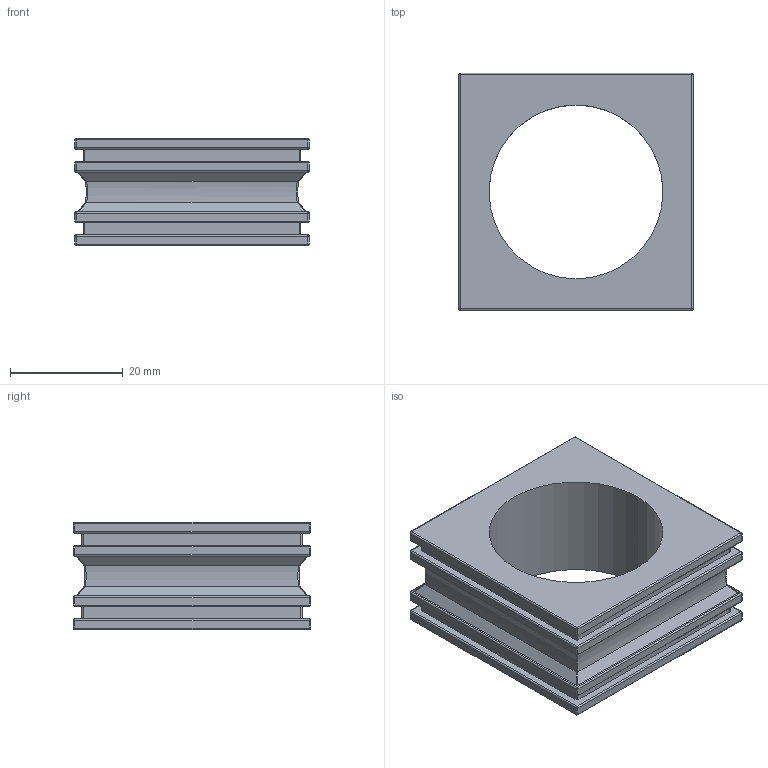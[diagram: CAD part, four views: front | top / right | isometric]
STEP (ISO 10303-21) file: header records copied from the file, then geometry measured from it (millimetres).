
FILE_DESCRIPTION (( 'STEP AP203' ), '1' );
FILE_NAME ('041231 KT31.STEP', '2023-03-07T06:44:07', ( '' ), ( '' ), 'SwSTEP 2.0', 'SolidWorks 2016', '' );
FILE_SCHEMA (( 'CONFIG_CONTROL_DESIGN' ));
Length unit declared in the file: millimetre
Products named in the file (1): 041231 KT31
Bounding box: 41.5 x 42 x 19 mm (x, y, z)
Volume: 16082.2 mm3; surface area: 8018.8 mm2
Topology: 1 solids, 1 shells, 194 faces, 480 edges, 266 vertices
Faces by surface type: plane 79, cylinder 71, bspline 44
Entity records: 6673 total; most frequent: CARTESIAN_POINT 2449, ORIENTED_EDGE 896, DIRECTION 804, EDGE_CURVE 448, AXIS2_PLACEMENT_3D 269, LINE 266, VECTOR 266, VERTEX_POINT 266
